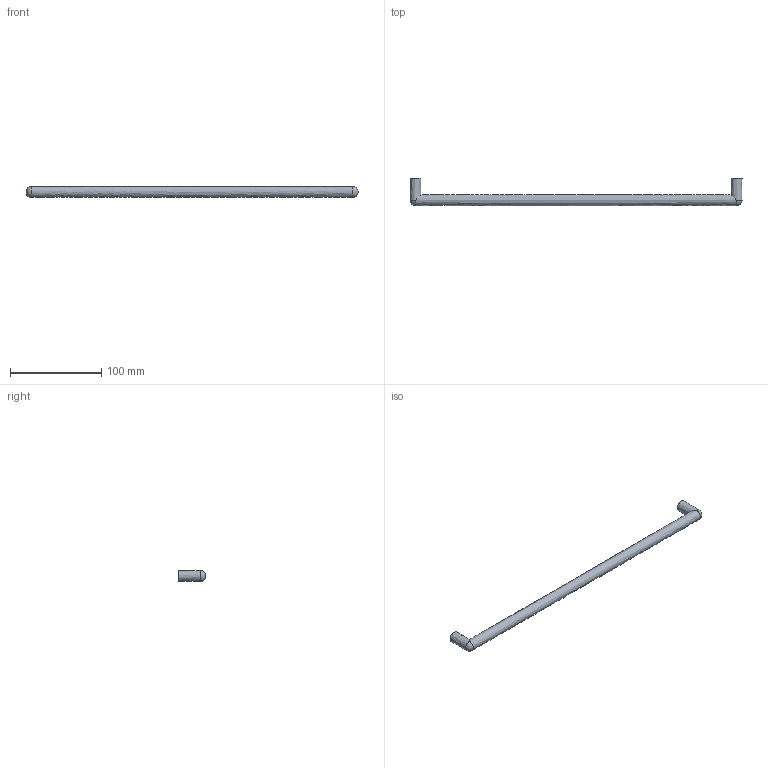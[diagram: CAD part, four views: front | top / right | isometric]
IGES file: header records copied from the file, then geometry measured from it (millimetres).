
Start section: Data from Parasolid IGES Translator 15.0.47, Copyright(c) 2006 Siemens P LM Software. All Rights Reserved.
Global section: file name:  9070977.igs; native system:  By UGS Corp.; preprocessor: XPlus GENERIC/IGES 3.0; author: Noname; organization: Noname; date: 20140122.181541; units: millimetre
Bounding box: 364 x 30 x 12 mm (x, y, z)
Surface area: 15558.2 mm2 (no closed solid volume)
Topology: 0 solids, 0 shells, 11 faces, 38 edges, 30 vertices
Faces by surface type: revolution 7, extrusion 4
